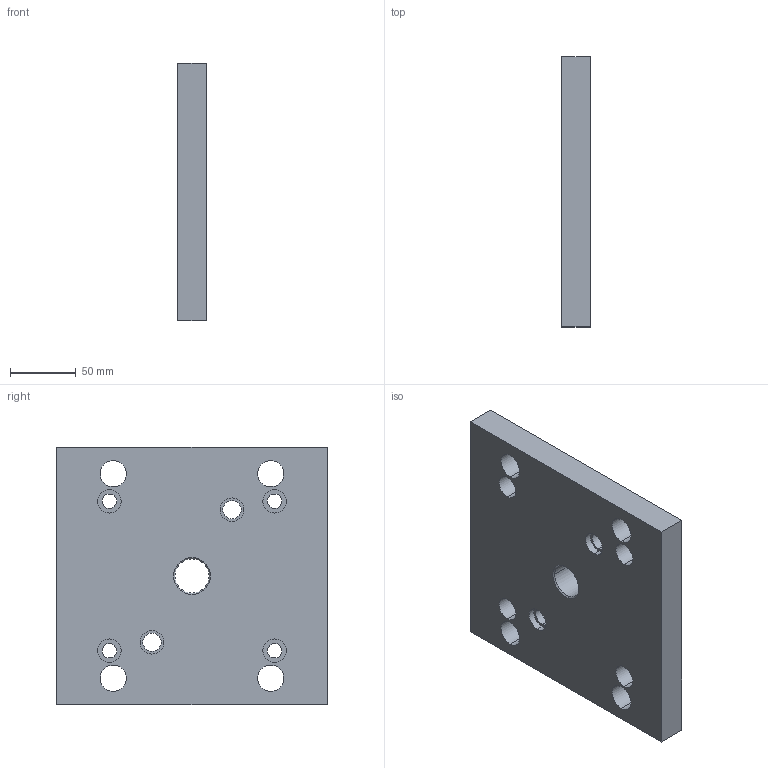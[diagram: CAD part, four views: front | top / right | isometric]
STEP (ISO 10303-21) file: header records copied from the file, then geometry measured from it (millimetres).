
FILE_DESCRIPTION (( 'STEP AP203' ), '1' );
FILE_NAME ('002 Plaque de Fixation.STEP', '2021-10-27T18:18:23', ( '' ), ( '' ), 'SwSTEP 2.0', 'SolidWorks 2019', '' );
FILE_SCHEMA (( 'CONFIG_CONTROL_DESIGN' ));
Length unit declared in the file: millimetre
Products named in the file (1): 002 Plaque de Fixation
Bounding box: 22 x 206 x 196 mm (x, y, z)
Volume: 824429.6 mm3; surface area: 106967.4 mm2
Topology: 1 solids, 1 shells, 50 faces, 122 edges, 80 vertices
Faces by surface type: cylinder 34, plane 12, cone 4
Entity records: 1627 total; most frequent: DIRECTION 296, CARTESIAN_POINT 253, ORIENTED_EDGE 244, AXIS2_PLACEMENT_3D 123, EDGE_CURVE 122, VERTEX_POINT 80, EDGE_LOOP 78, CIRCLE 72
